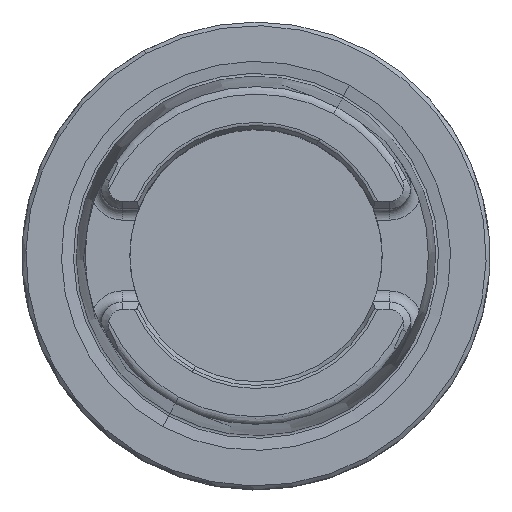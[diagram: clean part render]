
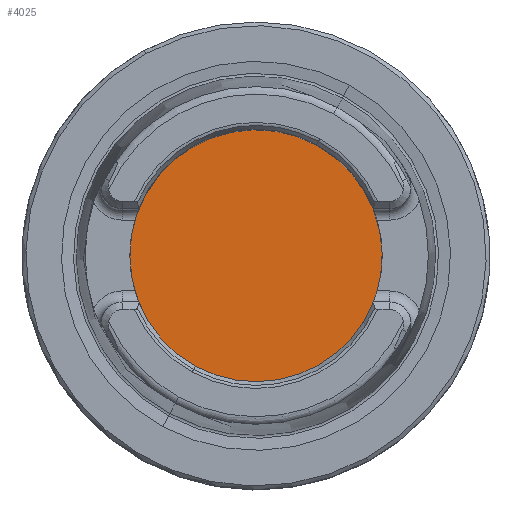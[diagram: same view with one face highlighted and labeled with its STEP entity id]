
A CAD part, top view. The second image highlights one B-rep face of the part: STEP entity #4025.
In plain terms, the highlighted planar face has unit normal (0, 0, 1).
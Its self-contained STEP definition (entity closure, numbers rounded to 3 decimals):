
#4005=AXIS2_PLACEMENT_3D('Plane Axis2P3D',#4002,#4003,#4004) ;
#4009=AXIS2_PLACEMENT_3D('Circle Axis2P3D',#4007,#4008,$) ;
#4018=AXIS2_PLACEMENT_3D('Circle Axis2P3D',#4016,#4017,$) ;
#4002=CARTESIAN_POINT('Axis2P3D Location',(0.,-15.75,-10.)) ;
#4007=CARTESIAN_POINT('Axis2P3D Location',(0.,0.,-10.)) ;
#4011=CARTESIAN_POINT('Vertex',(8.15,14.919,-10.)) ;
#4013=CARTESIAN_POINT('Vertex',(-8.15,-14.919,-10.)) ;
#4016=CARTESIAN_POINT('Axis2P3D Location',(0.,0.,-10.)) ;
#4003=DIRECTION('Axis2P3D Direction',(0.,0.,-1.)) ;
#4004=DIRECTION('Axis2P3D XDirection',(-1.,0.,0.)) ;
#4008=DIRECTION('Axis2P3D Direction',(0.,0.,-1.)) ;
#4017=DIRECTION('Axis2P3D Direction',(0.,0.,-1.)) ;
#4022=ORIENTED_EDGE('',*,*,#4015,.T.) ;
#4023=ORIENTED_EDGE('',*,*,#4020,.T.) ;
#4025=ADVANCED_FACE('NO_CUT',(#4024),#4006,.F.) ;
#4010=CIRCLE('generated circle',#4009,17.) ;
#4019=CIRCLE('generated circle',#4018,17.) ;
#4015=EDGE_CURVE('',#4012,#4014,#4010,.F.) ;
#4020=EDGE_CURVE('',#4014,#4012,#4019,.F.) ;
#4021=EDGE_LOOP('',(#4022,#4023)) ;
#4024=FACE_OUTER_BOUND('',#4021,.T.) ;
#4006=PLANE('',#4005) ;
#4012=VERTEX_POINT('',#4011) ;
#4014=VERTEX_POINT('',#4013) ;
